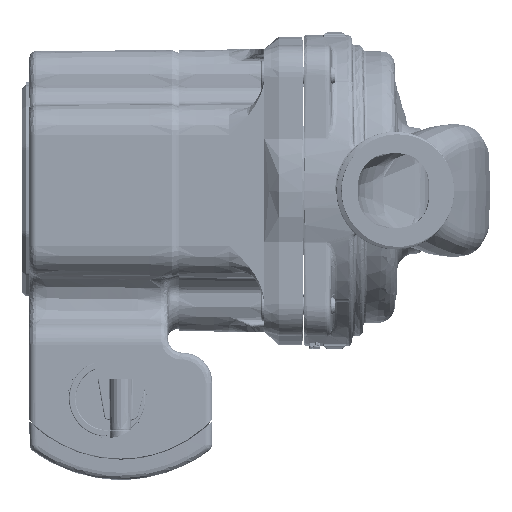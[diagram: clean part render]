
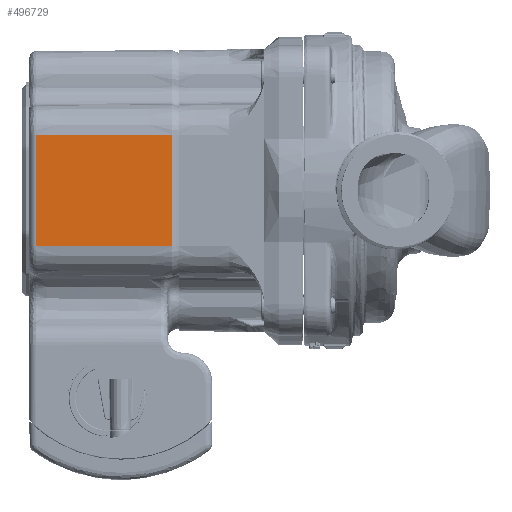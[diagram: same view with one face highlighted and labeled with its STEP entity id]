
A CAD part, left-side view. The second image highlights one B-rep face of the part: STEP entity #496729.
In plain terms, the highlighted planar face has unit normal (-1, 0.009, 0).
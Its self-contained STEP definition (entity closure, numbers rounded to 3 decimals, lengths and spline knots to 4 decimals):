
#9219 = VECTOR ( 'NONE', #234649, 39.3701 ) ;
#20918 = VECTOR ( 'NONE', #335558, 39.3701 ) ;
#86201 = CARTESIAN_POINT ( 'NONE',  ( -1.563, 0.6737, -0.6201 ) ) ;
#99842 = ORIENTED_EDGE ( 'NONE', *, *, #670388, .F. ) ;
#159223 = CARTESIAN_POINT ( 'NONE',  ( -1.563, 0.6737, 0.6201 ) ) ;
#162404 = EDGE_CURVE ( 'NONE', #388602, #507399, #289063, .T. ) ;
#174174 = CARTESIAN_POINT ( 'NONE',  ( -1.563, 0.6737, -0.6789 ) ) ;
#181104 = VERTEX_POINT ( 'NONE', #159223 ) ;
#204513 = AXIS2_PLACEMENT_3D ( 'NONE', #271704, #220634, #399821 ) ;
#220634 = DIRECTION ( 'NONE',  ( 1., -0.009, 0. ) ) ;
#234649 = DIRECTION ( 'NONE',  ( 0.009, 1., 0. ) ) ;
#238400 = LINE ( 'NONE', #481079, #642085 ) ;
#263222 = CARTESIAN_POINT ( 'NONE',  ( -1.5499, 2.1783, -0.6201 ) ) ;
#271704 = CARTESIAN_POINT ( 'NONE',  ( -1.563, 0.6737, -0.6789 ) ) ;
#289063 = LINE ( 'NONE', #391168, #9219 ) ;
#327307 = DIRECTION ( 'NONE',  ( 0., 0., -1. ) ) ;
#335558 = DIRECTION ( 'NONE',  ( -0.009, -1., 0. ) ) ;
#388602 = VERTEX_POINT ( 'NONE', #86201 ) ;
#391168 = CARTESIAN_POINT ( 'NONE',  ( -1.563, 0.6737, -0.6201 ) ) ;
#397517 = VERTEX_POINT ( 'NONE', #612209 ) ;
#399821 = DIRECTION ( 'NONE',  ( 0.009, 1., 0. ) ) ;
#407103 = ORIENTED_EDGE ( 'NONE', *, *, #450417, .F. ) ;
#413645 = EDGE_CURVE ( 'NONE', #397517, #181104, #594203, .T. ) ;
#422763 = LINE ( 'NONE', #174174, #614841 ) ;
#434357 = CARTESIAN_POINT ( 'NONE',  ( -1.5564, 1.426, 0.6201 ) ) ;
#450417 = EDGE_CURVE ( 'NONE', #181104, #388602, #422763, .T. ) ;
#481079 = CARTESIAN_POINT ( 'NONE',  ( -1.5499, 2.1783, -0.6291 ) ) ;
#496729 = ADVANCED_FACE ( 'NONE', ( #571306 ), #581377, .F. ) ;
#507399 = VERTEX_POINT ( 'NONE', #263222 ) ;
#541027 = ORIENTED_EDGE ( 'NONE', *, *, #162404, .F. ) ;
#571306 = FACE_OUTER_BOUND ( 'NONE', #658766, .T. ) ;
#581377 = PLANE ( 'NONE',  #204513 ) ;
#594203 = LINE ( 'NONE', #434357, #20918 ) ;
#612209 = CARTESIAN_POINT ( 'NONE',  ( -1.5499, 2.1783, 0.6201 ) ) ;
#614841 = VECTOR ( 'NONE', #327307, 39.3701 ) ;
#642085 = VECTOR ( 'NONE', #660281, 39.3701 ) ;
#643120 = ORIENTED_EDGE ( 'NONE', *, *, #413645, .F. ) ;
#658766 = EDGE_LOOP ( 'NONE', ( #407103, #643120, #99842, #541027 ) ) ;
#660281 = DIRECTION ( 'NONE',  ( 0., 0., 1. ) ) ;
#670388 = EDGE_CURVE ( 'NONE', #507399, #397517, #238400, .T. ) ;
